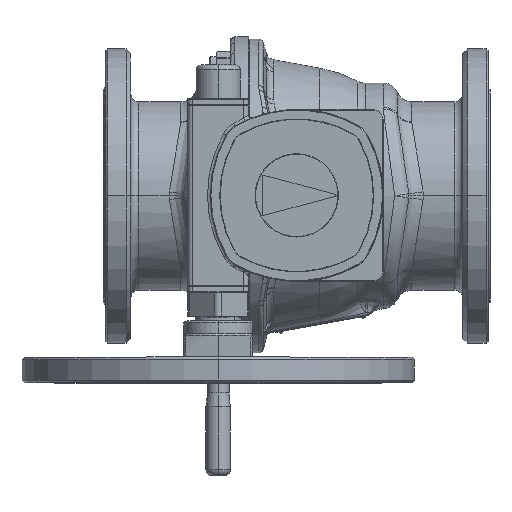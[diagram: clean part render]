
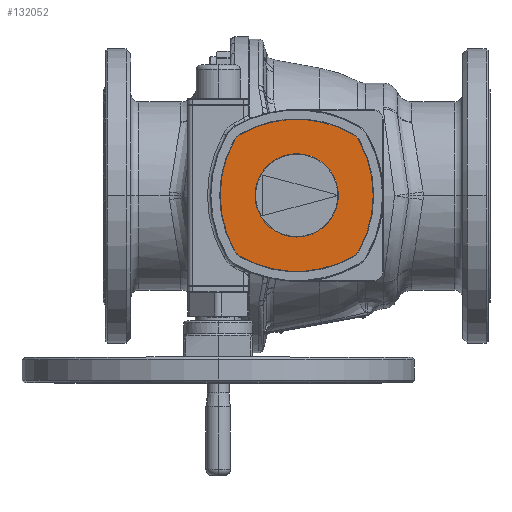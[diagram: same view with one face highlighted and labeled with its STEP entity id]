
A CAD part, top view. The second image highlights one B-rep face of the part: STEP entity #132052.
In plain terms, the highlighted planar face has unit normal (0, 0, 1).
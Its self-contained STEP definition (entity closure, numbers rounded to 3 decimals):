
#114487=CARTESIAN_POINT('',(0.,-37.5,175.));
#114488=DIRECTION('',(0.,0.,-1.));
#114489=DIRECTION('',(-0.502,0.865,0.));
#114490=AXIS2_PLACEMENT_3D('',#114487,#114488,#114489);
#114501=CARTESIAN_POINT('',(50.17,49.004,175.));
#114502=DIRECTION('',(0.,0.,1.));
#114503=DIRECTION('',(0.872,0.49,0.));
#114504=AXIS2_PLACEMENT_3D('',#114501,#114502,#114503);
#114515=CARTESIAN_POINT('',(-37.,0.,175.));
#114516=DIRECTION('',(0.,0.,-1.));
#114517=DIRECTION('',(0.872,0.49,0.));
#114518=AXIS2_PLACEMENT_3D('',#114515,#114516,#114517);
#114529=CARTESIAN_POINT('',(50.17,-49.004,175.));
#114530=DIRECTION('',(0.,0.,1.));
#114531=DIRECTION('',(0.502,-0.865,0.));
#114532=AXIS2_PLACEMENT_3D('',#114529,#114530,#114531);
#114543=CARTESIAN_POINT('',(0.,37.5,175.));
#114544=DIRECTION('',(0.,0.,-1.));
#114545=DIRECTION('',(0.502,-0.865,0.));
#114546=AXIS2_PLACEMENT_3D('',#114543,#114544,#114545);
#114557=CARTESIAN_POINT('',(-50.17,-49.004,175.));
#114558=DIRECTION('',(0.,0.,1.));
#114559=DIRECTION('',(-0.872,-0.49,0.));
#114560=AXIS2_PLACEMENT_3D('',#114557,#114558,#114559);
#114571=CARTESIAN_POINT('',(37.,0.,175.));
#114572=DIRECTION('',(0.,0.,-1.));
#114573=DIRECTION('',(-0.872,-0.49,0.));
#114574=AXIS2_PLACEMENT_3D('',#114571,#114572,#114573);
#114585=CARTESIAN_POINT('',(-50.17,49.004,175.));
#114586=DIRECTION('',(0.,0.,1.));
#114587=DIRECTION('',(-0.502,0.865,0.));
#114588=AXIS2_PLACEMENT_3D('',#114585,#114586,#114587);
#114590=CARTESIAN_POINT('',(0.,0.,175.));
#114591=DIRECTION('',(0.,0.,1.));
#114592=DIRECTION('',(-1.,0.,0.));
#114593=AXIS2_PLACEMENT_3D('',#114590,#114591,#114592);
#114595=CARTESIAN_POINT('',(0.,0.,175.));
#114596=DIRECTION('',(0.,0.,1.));
#114597=DIRECTION('',(1.,0.,0.));
#114598=AXIS2_PLACEMENT_3D('',#114595,#114596,#114597);
#118766=CARTESIAN_POINT('',(-42.5,0.,175.));
#118767=CARTESIAN_POINT('',(42.5,0.,175.));
#118768=VERTEX_POINT('',#118766);
#118769=VERTEX_POINT('',#118767);
#118770=CARTESIAN_POINT('',(57.695,-61.98,175.));
#118771=CARTESIAN_POINT('',(63.245,-56.355,175.));
#118772=VERTEX_POINT('',#118770);
#118773=VERTEX_POINT('',#118771);
#118774=CARTESIAN_POINT('',(63.245,56.355,175.));
#118775=VERTEX_POINT('',#118774);
#118776=CARTESIAN_POINT('',(57.695,61.98,175.));
#118777=VERTEX_POINT('',#118776);
#118778=CARTESIAN_POINT('',(-57.695,61.98,175.));
#118779=VERTEX_POINT('',#118778);
#118780=CARTESIAN_POINT('',(-63.245,56.355,175.));
#118781=VERTEX_POINT('',#118780);
#118782=CARTESIAN_POINT('',(-63.245,-56.355,175.));
#118783=VERTEX_POINT('',#118782);
#118784=CARTESIAN_POINT('',(-57.695,-61.98,175.));
#118785=VERTEX_POINT('',#118784);
#132031=CARTESIAN_POINT('',(0.,0.,175.));
#132032=DIRECTION('',(0.,0.,1.));
#132033=DIRECTION('',(1.,0.,0.));
#132034=AXIS2_PLACEMENT_3D('',#132031,#132032,#132033);
#132035=PLANE('',#132034);
#132036=ORIENTED_EDGE('',*,*,#131970,.F.);
#132037=ORIENTED_EDGE('',*,*,#131984,.T.);
#132038=ORIENTED_EDGE('',*,*,#131998,.F.);
#132039=ORIENTED_EDGE('',*,*,#132012,.T.);
#132040=ORIENTED_EDGE('',*,*,#132025,.F.);
#132041=ORIENTED_EDGE('',*,*,#131927,.T.);
#132042=ORIENTED_EDGE('',*,*,#131942,.F.);
#132043=ORIENTED_EDGE('',*,*,#131956,.T.);
#132044=EDGE_LOOP('',(#132036,#132037,#132038,#132039,#132040,#132041,#132042,
#132043));
#132045=FACE_OUTER_BOUND('',#132044,.F.);
#132047=ORIENTED_EDGE('',*,*,#132046,.T.);
#132049=ORIENTED_EDGE('',*,*,#132048,.T.);
#132050=EDGE_LOOP('',(#132047,#132049));
#132051=FACE_BOUND('',#132050,.F.);
#132052=ADVANCED_FACE('',(#132045,#132051),#132035,.T.);
#114491=CIRCLE('',#114490,115.);
#114505=CIRCLE('',#114504,15.);
#114519=CIRCLE('',#114518,115.);
#114533=CIRCLE('',#114532,15.);
#114547=CIRCLE('',#114546,115.);
#114561=CIRCLE('',#114560,15.);
#114575=CIRCLE('',#114574,115.);
#114589=CIRCLE('',#114588,15.);
#114594=CIRCLE('',#114593,42.5);
#114599=CIRCLE('',#114598,42.5);
#131927=EDGE_CURVE('',#118779,#118777,#114491,.T.);
#131942=EDGE_CURVE('',#118775,#118777,#114505,.T.);
#131956=EDGE_CURVE('',#118775,#118773,#114519,.T.);
#131970=EDGE_CURVE('',#118772,#118773,#114533,.T.);
#131984=EDGE_CURVE('',#118772,#118785,#114547,.T.);
#131998=EDGE_CURVE('',#118783,#118785,#114561,.T.);
#132012=EDGE_CURVE('',#118783,#118781,#114575,.T.);
#132025=EDGE_CURVE('',#118779,#118781,#114589,.T.);
#132046=EDGE_CURVE('',#118768,#118769,#114594,.T.);
#132048=EDGE_CURVE('',#118769,#118768,#114599,.T.);
